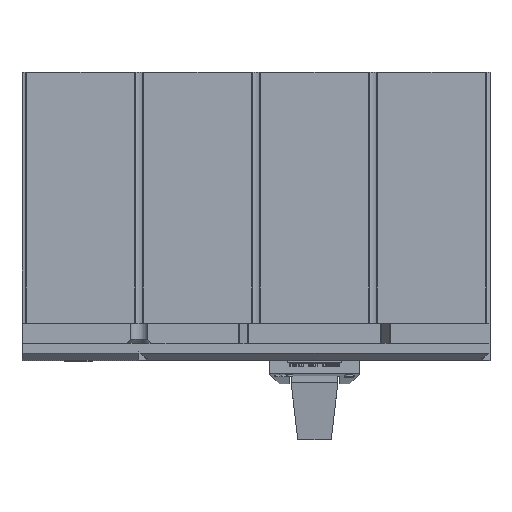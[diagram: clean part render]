
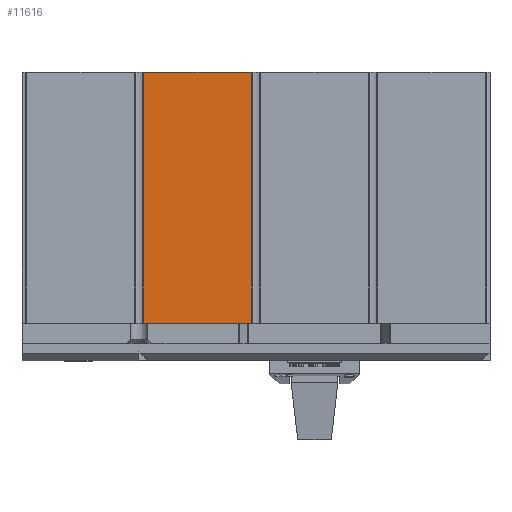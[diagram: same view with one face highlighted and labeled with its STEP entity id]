
A CAD part, top view. The second image highlights one B-rep face of the part: STEP entity #11616.
In plain terms, the highlighted planar face has unit normal (0, 0, 1).
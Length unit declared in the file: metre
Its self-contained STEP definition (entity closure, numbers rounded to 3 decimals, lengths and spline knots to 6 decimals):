
#48=PLANE('',#12282);
#609=LINE('',#16231,#2173);
#610=LINE('',#16236,#2174);
#611=LINE('',#16238,#2175);
#612=LINE('',#16239,#2176);
#2173=VECTOR('',#13108,0.075);
#2174=VECTOR('',#13115,0.0322);
#2175=VECTOR('',#13116,0.0322);
#2176=VECTOR('',#13117,0.075);
#3835=FACE_OUTER_BOUND('',#4471,.T.);
#4471=EDGE_LOOP('',(#8163,#8164,#8165,#8166));
#5314=VERTEX_POINT('',#16229);
#5315=VERTEX_POINT('',#16230);
#5316=VERTEX_POINT('',#16235);
#5317=VERTEX_POINT('',#16237);
#6449=EDGE_CURVE('',#5314,#5315,#609,.T.);
#6452=EDGE_CURVE('',#5316,#5314,#610,.T.);
#6453=EDGE_CURVE('',#5315,#5317,#611,.T.);
#6454=EDGE_CURVE('',#5317,#5316,#612,.T.);
#8163=ORIENTED_EDGE('',*,*,#6452,.T.);
#8164=ORIENTED_EDGE('',*,*,#6449,.T.);
#8165=ORIENTED_EDGE('',*,*,#6453,.T.);
#8166=ORIENTED_EDGE('',*,*,#6454,.T.);
#11616=ADVANCED_FACE('',(#3835),#48,.T.);
#12282=AXIS2_PLACEMENT_3D('',#16234,#13113,#13114);
#13108=DIRECTION('',(0.,-1.,0.));
#13113=DIRECTION('center_axis',(0.,0.,1.));
#13114=DIRECTION('ref_axis',(1.,0.,0.));
#13115=DIRECTION('',(-1.,0.,0.));
#13116=DIRECTION('',(1.,0.,0.));
#13117=DIRECTION('',(0.,1.,0.));
#16229=CARTESIAN_POINT('',(-0.0511,0.075,0.08));
#16230=CARTESIAN_POINT('',(-0.0511,0.,0.08));
#16231=CARTESIAN_POINT('',(-0.0511,0.075,0.08));
#16234=CARTESIAN_POINT('Origin',(0.,0.,0.08));
#16235=CARTESIAN_POINT('',(-0.0189,0.075,0.08));
#16236=CARTESIAN_POINT('',(-0.0189,0.075,0.08));
#16237=CARTESIAN_POINT('',(-0.0189,0.,0.08));
#16238=CARTESIAN_POINT('',(-0.0511,0.,0.08));
#16239=CARTESIAN_POINT('',(-0.0189,0.,0.08));
